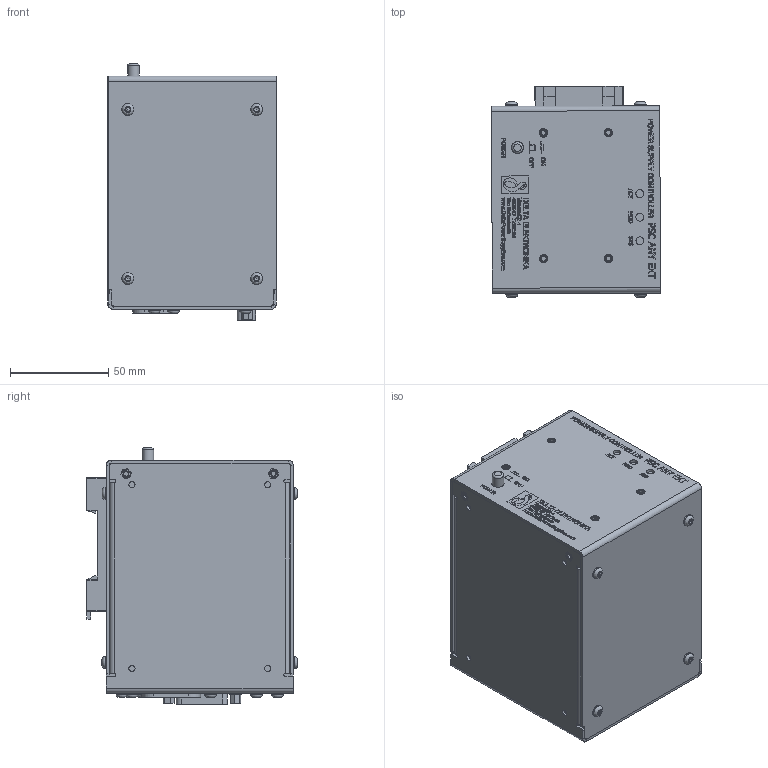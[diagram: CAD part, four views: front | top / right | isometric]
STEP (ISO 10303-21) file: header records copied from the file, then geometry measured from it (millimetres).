
FILE_DESCRIPTION(/* description */ (''),/* implementation_level */ '2;1');
FILE_NAME(/* name */ 'PSC ANY-EXT_Wmp-v.stp',/* time_stamp */ '2024-12-02T08:48:25+01:00',/* author */ ('Simon'),/* organization */ (''),/* preprocessor_version */ 'ST-DEVELOPER v19.2',/* originating_system */ 'Autodesk Inventor 2024',/* authorisation */ '');
FILE_SCHEMA (('AUTOMOTIVE_DESIGN { 1 0 10303 214 3 1 1 }'));
Products named in the file (1): _Assembly anybus-ext_Simplify_1
Bounding box: 85.7 x 107.32 x 130.29 mm (x, y, z)
Volume: 926123.6 mm3; surface area: 90002.4 mm2
Topology: 1 solids, 190 shells, 5778 faces, 15572 edges, 10383 vertices
Faces by surface type: plane 4012, bspline 998, cylinder 635, cone 100, torus 33
Full cylindrical faces by diameter (mm): 0.43 x50, 0.6 x3, 0.7 x1, 1 x15, 2.156 x2, 2.459 x9, 2.5 x2, 2.75 x2, 3.1 x4, 3.2 x2, 4 x9, 4.14 x5, 4.3 x13, 4.4 x2, 5 x2, 5.8 x1, 6 x18, 6.2 x3
Entity records: 196421 total; most frequent: CARTESIAN_POINT 50691, ORIENTED_EDGE 30254, DIRECTION 25217, EDGE_CURVE 15604, LINE 11697, VECTOR 11697, VERTEX_POINT 10383, AXIS2_PLACEMENT_3D 6760
